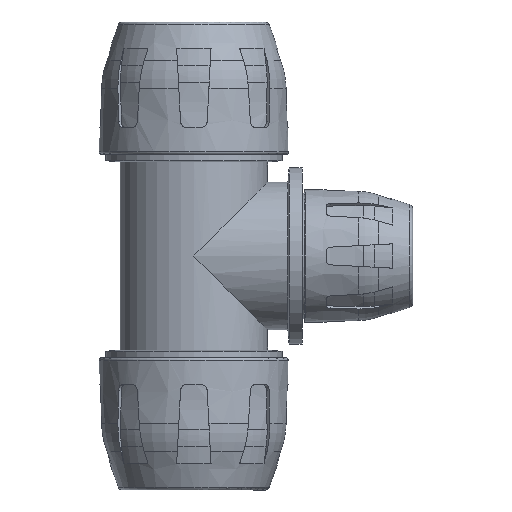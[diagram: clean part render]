
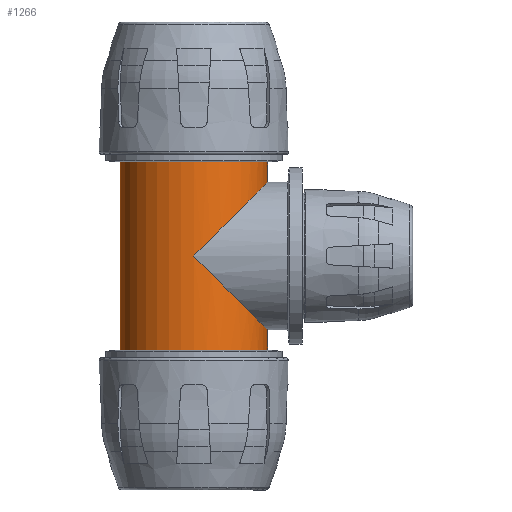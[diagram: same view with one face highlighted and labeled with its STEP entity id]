
A CAD part, left-side view. The second image highlights one B-rep face of the part: STEP entity #1266.
In plain terms, the highlighted cylindrical face has radius 34 mm (diameter 68 mm), a full revolution.
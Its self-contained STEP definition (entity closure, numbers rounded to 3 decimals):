
#1266 = ADVANCED_FACE( '', ( #2859, #2860, #2861 ), #2862, .T. );
#2859 = FACE_OUTER_BOUND( '', #5418, .T. );
#2860 = FACE_OUTER_BOUND( '', #5419, .T. );
#2861 = FACE_BOUND( '', #5420, .T. );
#2862 = CYLINDRICAL_SURFACE( '', #5421, 34. );
#5418 = EDGE_LOOP( '', ( #9530 ) );
#5419 = EDGE_LOOP( '', ( #9531 ) );
#5420 = EDGE_LOOP( '', ( #9532, #9533 ) );
#5421 = AXIS2_PLACEMENT_3D( '', #9534, #9535, #9536 );
#9530 = ORIENTED_EDGE( '', *, *, #13794, .F. );
#9531 = ORIENTED_EDGE( '', *, *, #13795, .T. );
#9532 = ORIENTED_EDGE( '', *, *, #13328, .F. );
#9533 = ORIENTED_EDGE( '', *, *, #13329, .F. );
#9534 = CARTESIAN_POINT( '', ( -900.934, -371.894, 159.612 ) );
#9535 = DIRECTION( '', ( 0., 0., -1. ) );
#9536 = DIRECTION( '', ( 1., 0., 0. ) );
#13328 = EDGE_CURVE( '', #16277, #16278, #16279, .T. );
#13329 = EDGE_CURVE( '', #16278, #16277, #16280, .T. );
#13794 = EDGE_CURVE( '', #16941, #16941, #16942, .T. );
#13795 = EDGE_CURVE( '', #16943, #16943, #16944, .T. );
#16277 = VERTEX_POINT( '', #21503 );
#16278 = VERTEX_POINT( '', #21504 );
#16279 = ELLIPSE( '', #21505, 48.083, 34. );
#16280 = ELLIPSE( '', #21506, 48.083, 34. );
#16941 = VERTEX_POINT( '', #22942 );
#16942 = CIRCLE( '', #22943, 34. );
#16943 = VERTEX_POINT( '', #22944 );
#16944 = CIRCLE( '', #22945, 34. );
#21503 = CARTESIAN_POINT( '', ( -866.934, -371.894, 80.112 ) );
#21504 = CARTESIAN_POINT( '', ( -934.934, -371.894, 80.112 ) );
#21505 = AXIS2_PLACEMENT_3D( '', #25903, #25904, #25905 );
#21506 = AXIS2_PLACEMENT_3D( '', #25906, #25907, #25908 );
#22942 = CARTESIAN_POINT( '', ( -866.934, -371.894, 123.526 ) );
#22943 = AXIS2_PLACEMENT_3D( '', #26329, #26330, #26331 );
#22944 = CARTESIAN_POINT( '', ( -866.934, -371.894, 36.698 ) );
#22945 = AXIS2_PLACEMENT_3D( '', #26332, #26333, #26334 );
#25903 = CARTESIAN_POINT( '', ( -900.934, -371.894, 80.112 ) );
#25904 = DIRECTION( '', ( 0., -0.707, -0.707 ) );
#25905 = DIRECTION( '', ( 0., -0.707, 0.707 ) );
#25906 = CARTESIAN_POINT( '', ( -900.934, -371.894, 80.112 ) );
#25907 = DIRECTION( '', ( 0., -0.707, 0.707 ) );
#25908 = DIRECTION( '', ( 0., -0.707, -0.707 ) );
#26329 = CARTESIAN_POINT( '', ( -900.934, -371.894, 123.526 ) );
#26330 = DIRECTION( '', ( 0., 0., 1. ) );
#26331 = DIRECTION( '', ( 1., 0., 0. ) );
#26332 = CARTESIAN_POINT( '', ( -900.934, -371.894, 36.698 ) );
#26333 = DIRECTION( '', ( 0., 0., 1. ) );
#26334 = DIRECTION( '', ( 1., 0., 0. ) );
